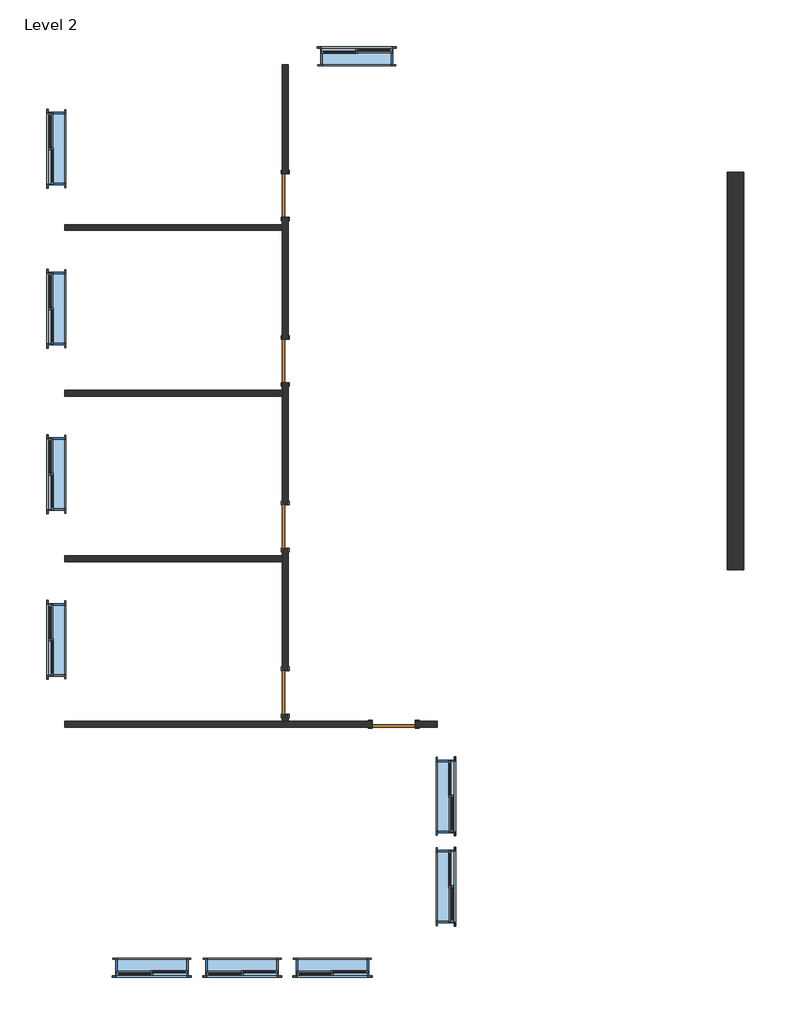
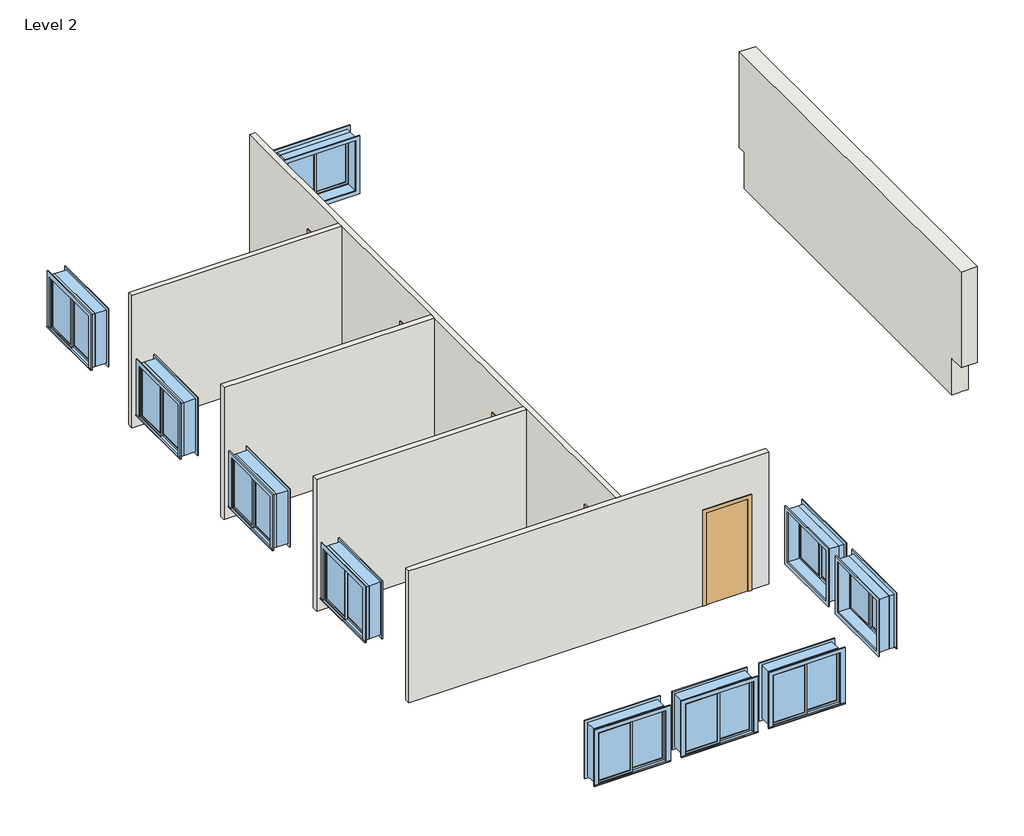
# One storey: 10 windows, 6 walls, 5 doors.
"""IFC4 building model written with IfcOpenShell, lengths in millimetres."""

from ifc_helpers import new_model, si_unit, frame, origin, place, context, project, spatial, polyline, outline, extrude, faceted_brep, transform, mapped, element, save
from components import door_eb9f8b14, window_8313e728

model = new_model("IFC4")

# Units and contexts
model_context = context("Model", 3, world=origin())
ifc_project = project(units=[si_unit("LENGTHUNIT", "METRE", prefix="MILLI")], contexts=[model_context])

# Site, building, storey
site = spatial("IfcSite", under=ifc_project)
building = spatial("IfcBuilding", under=site)
storey = spatial("IfcBuildingStorey", under=building, Name="Level 2", Elevation=3060.0)

# Doors
placement = place(None, origin())
door_shape = door_eb9f8b14(model_context)
element("IfcDoor", 1, ObjectType="Single-Flush : 36\" x 84\"", at=placement, inside=storey, context=model_context, shape_type="MappedRepresentation", body=[
    mapped(door_shape, transform((-6668.5516552, -3294.8769576, 3060.0), x_axis=(1.0, 0.0, 0.0), y_axis=(0.0, 1.0, 0.0), z_axis=(0.0, 0.0, 1.0))),
])
element("IfcDoor", 2, ObjectType="Single-Flush : 36\" x 84\"", at=placement, inside=storey, context=model_context, shape_type="MappedRepresentation", body=[
    mapped(door_shape, transform((-8949.7891552, -2623.3644576, 3060.0), x_axis=(0.0, -1.0, 0.0), y_axis=(1.0, 0.0, 0.0), z_axis=(0.0, 0.0, 1.0))),
])
element("IfcDoor", 3, ObjectType="Single-Flush : 36\" x 84\"", at=placement, inside=storey, context=model_context, shape_type="MappedRepresentation", body=[
    mapped(door_shape, transform((-8949.7891552, 862.7855424, 3060.0), x_axis=(0.0, -1.0, 0.0), y_axis=(1.0, 0.0, 0.0), z_axis=(0.0, 0.0, 1.0))),
])
element("IfcDoor", 4, ObjectType="Single-Flush : 36\" x 84\"", at=placement, inside=storey, context=model_context, shape_type="MappedRepresentation", body=[
    mapped(door_shape, transform((-8949.7891552, 4339.4105424, 3060.0), x_axis=(0.0, -1.0, 0.0), y_axis=(1.0, 0.0, 0.0), z_axis=(0.0, 0.0, 1.0))),
])
element("IfcDoor", 5, ObjectType="Single-Flush : 36\" x 84\"", at=placement, inside=storey, context=model_context, shape_type="MappedRepresentation", body=[
    mapped(door_shape, transform((-8949.7891552, 7820.7980424, 3060.0), x_axis=(0.0, -1.0, 0.0), y_axis=(1.0, 0.0, 0.0), z_axis=(0.0, 0.0, 1.0))),
])

# Walls
element("IfcWall", 6, ObjectType="Exterior - Brick on Mtl. Stud", at=placement, inside=storey, context=model_context, shape_type="Brep", body=[
    faceted_brep([(341.8483448, 8130.3605424, 3060.0), (341.8483448, 2791.5980424, 3060.0), (341.8483448, 1165.9980424, 3060.0), (341.8483448, 300.8105424, 3060.0), (341.8483448, 300.8105424, 3900.0), (341.8483448, -51.6144576, 3900.0), (341.8483448, -51.6144576, 6100.0), (341.8483448, 300.8105424, 6100.0), (341.8483448, 8306.5730424, 6100.0), (341.8483448, 8306.5730424, 3900.0), (341.8483448, 8130.3605424, 3900.0), (694.2733448, 8130.3605424, 3060.0), (694.2733448, 8130.3605424, 3900.0), (694.2733448, 8306.5730424, 3900.0), (694.2733448, 8306.5730424, 6100.0), (694.2733448, -51.6144576, 6100.0), (694.2733448, -51.6144576, 3900.0), (694.2733448, 300.8105424, 3900.0), (694.2733448, 300.8105424, 3060.0), (465.6733448, 8130.3605424, 3060.0), (545.0483448, 8130.3605424, 3060.0), (545.0483448, 300.8105424, 3060.0), (518.0608448, 300.8105424, 3060.0), (465.6733448, 300.8105424, 3060.0)], [[[0, 1, 2, 3, 4, 5, 6, 7, 8, 9, 10]], [[11, 12, 13, 14, 15, 16, 17, 18]], [[3, 2, 1, 0, 19, 20, 11, 18, 21, 22, 23]], [[8, 7, 6, 15, 14]], [[9, 8, 14, 13]], [[9, 13, 12, 10]], [[0, 10, 12, 11, 20, 19]], [[16, 5, 4, 17]], [[4, 3, 23, 22, 21, 18, 17]], [[6, 5, 16, 15]]]),
])
element("IfcWall", 7, ObjectType="Interior - 4 7/8\" Partition (1-hr)", at=placement, inside=storey, context=model_context, shape_type="Brep", body=[
    faceted_brep([(-8887.8766552, 4796.6105424, 3060.0), (-8887.8766552, 7363.5980424, 3060.0), (-8887.8766552, 7363.5980424, 5193.6), (-8887.8766552, 8277.9980424, 5193.6), (-8887.8766552, 8277.9980424, 3060.0), (-8887.8766552, 10568.7605424, 3060.0), (-8887.8766552, 10568.7605424, 6100.0), (-8887.8766552, -3232.9644576, 6100.0), (-8887.8766552, -3232.9644576, 3060.0), (-8887.8766552, -3080.5644576, 3060.0), (-8887.8766552, -3080.5644576, 5193.6), (-8887.8766552, -2166.1644576, 5193.6), (-8887.8766552, -2166.1644576, 3060.0), (-8887.8766552, 405.5855424, 3060.0), (-8887.8766552, 405.5855424, 5193.6), (-8887.8766552, 1319.9855424, 5193.6), (-8887.8766552, 1319.9855424, 3060.0), (-8887.8766552, 3882.2105424, 3060.0), (-8887.8766552, 3882.2105424, 5193.6), (-8887.8766552, 4796.6105424, 5193.6), (-9011.7016552, 7363.5980424, 5193.6), (-9011.7016552, 7363.5980424, 3060.0), (-9011.7016552, 7211.1980424, 3060.0), (-9011.7016552, 7087.3730424, 3060.0), (-9011.7016552, 4796.6105424, 3060.0), (-9011.7016552, 4796.6105424, 5193.6), (-9011.7016552, 3882.2105424, 5193.6), (-9011.7016552, 3882.2105424, 3060.0), (-9011.7016552, 3729.8105424, 3060.0), (-9011.7016552, 3605.9855424, 3060.0), (-9011.7016552, 1319.9855424, 3060.0), (-9011.7016552, 1319.9855424, 5193.6), (-9011.7016552, 405.5855424, 5193.6), (-9011.7016552, 405.5855424, 3060.0), (-9011.7016552, 248.4230424, 3060.0), (-9011.7016552, 124.5980424, 3060.0), (-9011.7016552, -2166.1644576, 3060.0), (-9011.7016552, -2166.1644576, 5193.6), (-9011.7016552, -3080.5644576, 5193.6), (-9011.7016552, -3080.5644576, 3060.0), (-9011.7016552, -3232.9644576, 3060.0), (-9011.7016552, -3232.9644576, 6100.0), (-9011.7016552, 124.5980424, 6100.0), (-9011.7016552, 248.4230424, 6100.0), (-9011.7016552, 3605.9855424, 6100.0), (-9011.7016552, 3729.8105424, 6100.0), (-9011.7016552, 7087.3730424, 6100.0), (-9011.7016552, 7211.1980424, 6100.0), (-9011.7016552, 10568.7605424, 6100.0), (-9011.7016552, 10568.7605424, 3060.0), (-9011.7016552, 8277.9980424, 3060.0), (-9011.7016552, 8277.9980424, 5193.6)], [[[0, 1, 2, 3, 4, 5, 6, 7, 8, 9, 10, 11, 12, 13, 14, 15, 16, 17, 18, 19]], [[20, 21, 22, 23, 24, 25, 26, 27, 28, 29, 30, 31, 32, 33, 34, 35, 36, 37, 38, 39, 40, 41, 42, 43, 44, 45, 46, 47, 48, 49, 50, 51]], [[40, 39, 9, 8]], [[36, 35, 34, 33, 13, 12]], [[30, 29, 28, 27, 17, 16]], [[50, 49, 5, 4]], [[24, 23, 22, 21, 1, 0]], [[7, 6, 48, 47, 46, 45, 44, 43, 42, 41]], [[8, 7, 41, 40]], [[10, 9, 39, 38]], [[11, 10, 38, 37]], [[12, 11, 37, 36]], [[14, 13, 33, 32]], [[15, 14, 32, 31]], [[16, 15, 31, 30]], [[18, 17, 27, 26]], [[19, 18, 26, 25]], [[0, 19, 25, 24]], [[2, 1, 21, 20]], [[3, 2, 20, 51]], [[4, 3, 51, 50]], [[6, 5, 49, 48]]]),
])
element("IfcWall", 8, ObjectType="Interior - 4 7/8\" Partition (1-hr)", at=placement, inside=storey, context=model_context, shape_type="Brep", body=[
    faceted_brep([(-6211.3516552, -3356.7894576, 5193.6), (-6211.3516552, -3356.7894576, 3060.0), (-5754.1516552, -3356.7894576, 3060.0), (-5754.1516552, -3356.7894576, 6100.0), (-13177.3016552, -3356.7894576, 6100.0), (-13583.7016552, -3356.7894576, 6100.0), (-13583.7016552, -3356.7894576, 3060.0), (-7125.7516552, -3356.7894576, 3060.0), (-7125.7516552, -3356.7894576, 5193.6), (-5754.1516552, -3232.9644576, 3060.0), (-6211.3516552, -3232.9644576, 3060.0), (-6211.3516552, -3232.9644576, 5193.6), (-7125.7516552, -3232.9644576, 5193.6), (-7125.7516552, -3232.9644576, 3060.0), (-8887.8766552, -3232.9644576, 3060.0), (-9011.7016552, -3232.9644576, 3060.0), (-13583.7016552, -3232.9644576, 3060.0), (-13583.7016552, -3232.9644576, 6100.0), (-13177.3016552, -3232.9644576, 6100.0), (-9011.7016552, -3232.9644576, 6100.0), (-8887.8766552, -3232.9644576, 6100.0), (-5754.1516552, -3232.9644576, 6100.0)], [[[0, 1, 2, 3, 4, 5, 6, 7, 8]], [[9, 10, 11, 12, 13, 14, 15, 16, 17, 18, 19, 20, 21]], [[7, 6, 16, 15, 14, 13]], [[2, 1, 10, 9]], [[5, 4, 3, 21, 20, 19, 18, 17]], [[11, 10, 1, 0]], [[12, 11, 0, 8]], [[13, 12, 8, 7]], [[3, 2, 9, 21]], [[6, 5, 17, 16]]]),
])
element("IfcWall", 9, ObjectType="Interior - 4 7/8\" Partition (1-hr)", at=placement, inside=storey, context=model_context, shape_type="SweptSolid", body=[
    extrude(outline(polyline([(-9011.7016552, 124.5980424), (-13583.7016552, 124.5980424), (-13583.7016552, 248.4230424), (-9011.7016552, 248.4230424), (-9011.7016552, 124.5980424)])), frame((0.0, 0.0, 3060.0), z_axis=(0.0, 0.0, 1.0), x_axis=(1.0, 0.0, 0.0)), (0.0, 0.0, 1.0), 3040.0),
])
element("IfcWall", 10, ObjectType="Interior - 4 7/8\" Partition (1-hr)", at=placement, inside=storey, context=model_context, shape_type="Brep", body=[
    faceted_brep([(-13583.7016552, 3605.9855424, 3060.0), (-13177.3016552, 3605.9855424, 3060.0), (-9011.7016552, 3605.9855424, 3060.0), (-9011.7016552, 3605.9855424, 6100.0), (-13177.3016552, 3605.9855424, 6100.0), (-13583.7016552, 3605.9855424, 6100.0), (-13583.7016552, 3729.8105424, 3060.0), (-13583.7016552, 3729.8105424, 6100.0), (-13177.3016552, 3729.8105424, 6100.0), (-9011.7016552, 3729.8105424, 6100.0), (-9011.7016552, 3729.8105424, 3060.0), (-13177.3016552, 3729.8105424, 3060.0), (-13583.7016552, 3619.4792924, 3060.0)], [[[0, 1, 2, 3, 4, 5]], [[6, 7, 8, 9, 10, 11]], [[2, 1, 0, 12, 6, 11, 10]], [[5, 4, 3, 9, 8, 7]], [[3, 2, 10, 9]], [[0, 5, 7, 6, 12]]]),
])
element("IfcWall", 11, ObjectType="Interior - 4 7/8\" Partition (1-hr)", at=placement, inside=storey, context=model_context, shape_type="SweptSolid", body=[
    extrude(outline(polyline([(-9011.7016552, 7087.3730424), (-13583.7016552, 7087.3730424), (-13583.7016552, 7211.1980424), (-9011.7016552, 7211.1980424), (-9011.7016552, 7087.3730424)])), frame((0.0, 0.0, 3060.0), z_axis=(0.0, 0.0, 1.0), x_axis=(1.0, 0.0, 0.0)), (0.0, 0.0, 1.0), 3040.0),
])

# Windows
window_shape = window_8313e728(model_context)
element("IfcWindow", 12, ObjectType="Slider with Trim : 60\" x 48\"", at=placement, inside=storey, context=model_context, shape_type="MappedRepresentation", body=[
    mapped(window_shape, transform((-13759.9141552, -1519.2582076, 3060.0), x_axis=(0.0, 1.0, 0.0), y_axis=(-1.0, 0.0, 0.0), z_axis=(0.0, 0.0, 1.0))),
])
element("IfcWindow", 13, ObjectType="Slider with Trim : 60\" x 48\"", at=placement, inside=storey, context=model_context, shape_type="MappedRepresentation", body=[
    mapped(window_shape, transform((-13759.9141552, 1962.1292924, 3060.0), x_axis=(0.0, 1.0, 0.0), y_axis=(-1.0, 0.0, 0.0), z_axis=(0.0, 0.0, 1.0))),
])
element("IfcWindow", 14, ObjectType="Slider with Trim : 60\" x 48\"", at=placement, inside=storey, context=model_context, shape_type="MappedRepresentation", body=[
    mapped(window_shape, transform((-13759.9141552, 5443.5167924, 3060.0), x_axis=(0.0, 1.0, 0.0), y_axis=(-1.0, 0.0, 0.0), z_axis=(0.0, 0.0, 1.0))),
])
element("IfcWindow", 15, ObjectType="Slider with Trim : 60\" x 48\"", at=placement, inside=storey, context=model_context, shape_type="MappedRepresentation", body=[
    mapped(window_shape, transform((-13759.9141552, 8805.0480424, 3060.0), x_axis=(0.0, 1.0, 0.0), y_axis=(-1.0, 0.0, 0.0), z_axis=(0.0, 0.0, 1.0))),
])
element("IfcWindow", 16, ObjectType="Slider with Trim : 60\" x 48\"", at=placement, inside=storey, context=model_context, shape_type="MappedRepresentation", body=[
    mapped(window_shape, transform((-11754.9016552, -8409.8019576, 3060.0), x_axis=(-1.0, 0.0, 0.0), y_axis=(0.0, -1.0, 0.0), z_axis=(0.0, 0.0, 1.0))),
])
element("IfcWindow", 17, ObjectType="Slider with Trim : 60\" x 48\"", at=placement, inside=storey, context=model_context, shape_type="MappedRepresentation", body=[
    mapped(window_shape, transform((-9856.2516552, -8409.8019576, 3060.0), x_axis=(-1.0, 0.0, 0.0), y_axis=(0.0, -1.0, 0.0), z_axis=(0.0, 0.0, 1.0))),
])
element("IfcWindow", 18, ObjectType="Slider with Trim : 60\" x 48\"", at=placement, inside=storey, context=model_context, shape_type="MappedRepresentation", body=[
    mapped(window_shape, transform((-7957.6016552, -8409.8019576, 3060.0), x_axis=(-1.0, 0.0, 0.0), y_axis=(0.0, -1.0, 0.0), z_axis=(0.0, 0.0, 1.0))),
])
element("IfcWindow", 19, ObjectType="Slider with Trim : 60\" x 48\"", at=placement, inside=storey, context=model_context, shape_type="MappedRepresentation", body=[
    mapped(window_shape, transform((-5577.9391552, -6709.5894576, 3060.0), x_axis=(0.0, -1.0, 0.0), y_axis=(1.0, 0.0, 0.0), z_axis=(0.0, 0.0, 1.0))),
])
element("IfcWindow", 20, ObjectType="Slider with Trim : 60\" x 48\"", at=placement, inside=storey, context=model_context, shape_type="MappedRepresentation", body=[
    mapped(window_shape, transform((-5577.9391552, -4810.9394576, 3060.0), x_axis=(0.0, -1.0, 0.0), y_axis=(1.0, 0.0, 0.0), z_axis=(0.0, 0.0, 1.0))),
])
element("IfcWindow", 21, ObjectType="Slider with Trim : 60\" x 48\"", at=placement, inside=storey, context=model_context, shape_type="MappedRepresentation", body=[
    mapped(window_shape, transform((-7446.4266552, 10744.9730424, 3060.0), x_axis=(1.0, 0.0, 0.0), y_axis=(0.0, 1.0, 0.0), z_axis=(0.0, 0.0, 1.0))),
])

save(model, "model.ifc")
